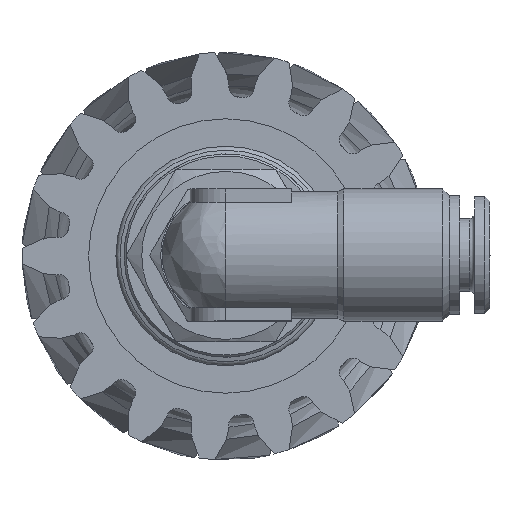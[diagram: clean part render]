
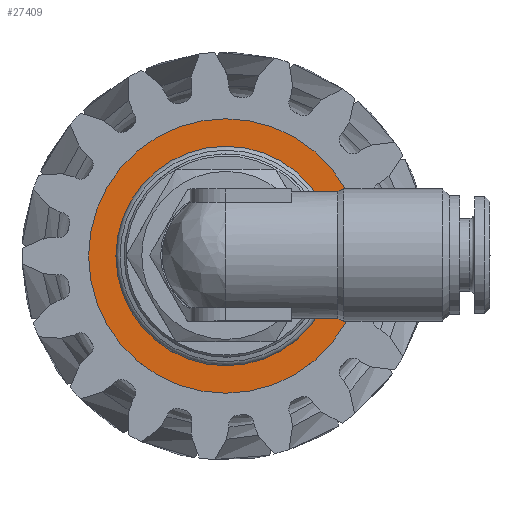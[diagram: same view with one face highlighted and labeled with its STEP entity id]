
A CAD part, top view. The second image highlights one B-rep face of the part: STEP entity #27409.
In plain terms, the highlighted planar face has unit normal (0, 0, 1) as drawn and (0, 1, 0) by its records, which use the part's own axes.
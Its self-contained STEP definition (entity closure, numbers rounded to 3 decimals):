
#2701 = EDGE_CURVE ( 'NONE', #38637, #38637, #3137, .T. ) ;
#3137 = CIRCLE ( 'NONE', #11016, 13.5 ) ;
#11016 = AXIS2_PLACEMENT_3D ( 'NONE', #17715, #27042, #38935 ) ;
#14836 = DIRECTION ( 'NONE',  ( 0., 0., -1. ) ) ;
#17377 = CARTESIAN_POINT ( 'NONE',  ( 0., 0.6, 0. ) ) ;
#17715 = CARTESIAN_POINT ( 'NONE',  ( 0., 0.6, 0. ) ) ;
#18324 = CIRCLE ( 'NONE', #35037, 10.8 ) ;
#20449 = EDGE_LOOP ( 'NONE', ( #32502 ) ) ;
#23367 = FACE_OUTER_BOUND ( 'NONE', #46319, .T. ) ;
#26745 = CARTESIAN_POINT ( 'NONE',  ( 0., 0.6, 13.5 ) ) ;
#27042 = DIRECTION ( 'NONE',  ( 0., 1., 0. ) ) ;
#27409 = ADVANCED_FACE ( 'NONE', ( #35776, #23367 ), #28050, .F. ) ;
#28050 = PLANE ( 'NONE',  #31960 ) ;
#29206 = VERTEX_POINT ( 'NONE', #41625 ) ;
#31960 = AXIS2_PLACEMENT_3D ( 'NONE', #44900, #49300, #14836 ) ;
#32502 = ORIENTED_EDGE ( 'NONE', *, *, #53059, .F. ) ;
#34718 = DIRECTION ( 'NONE',  ( 0., 1., 0. ) ) ;
#35037 = AXIS2_PLACEMENT_3D ( 'NONE', #17377, #34718, #42222 ) ;
#35776 = FACE_BOUND ( 'NONE', #20449, .T. ) ;
#38637 = VERTEX_POINT ( 'NONE', #26745 ) ;
#38935 = DIRECTION ( 'NONE',  ( 0., 0., 1. ) ) ;
#41625 = CARTESIAN_POINT ( 'NONE',  ( 0., 0.6, 10.8 ) ) ;
#42222 = DIRECTION ( 'NONE',  ( 0., 0., 1. ) ) ;
#44326 = ORIENTED_EDGE ( 'NONE', *, *, #2701, .T. ) ;
#44900 = CARTESIAN_POINT ( 'NONE',  ( 13.5, 0.6, 0. ) ) ;
#46319 = EDGE_LOOP ( 'NONE', ( #44326 ) ) ;
#49300 = DIRECTION ( 'NONE',  ( 0., -1., 0. ) ) ;
#53059 = EDGE_CURVE ( 'NONE', #29206, #29206, #18324, .T. ) ;
